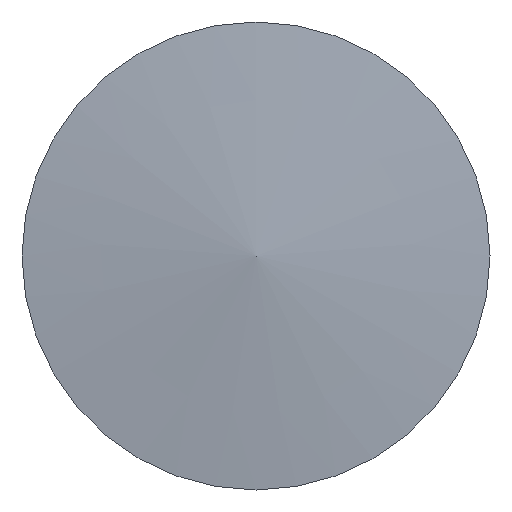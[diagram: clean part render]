
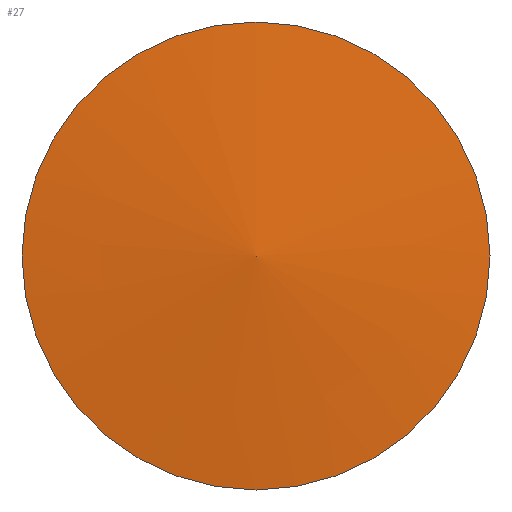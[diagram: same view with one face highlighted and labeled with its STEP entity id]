
A CAD part, front view. The second image highlights one B-rep face of the part: STEP entity #27.
In plain terms, the highlighted conical face has half-angle 84.15 degrees and reference radius 5.507 mm.
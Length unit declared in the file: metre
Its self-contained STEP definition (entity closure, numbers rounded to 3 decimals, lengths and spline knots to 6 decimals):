
#12=VERTEX_LOOP('',#18);
#13=CONICAL_SURFACE('',#35,0.005507,1.469);
#15=ORIENTED_EDGE('',*,*,#16,.F.);
#16=EDGE_CURVE('',#17,#17,#19,.T.);
#17=VERTEX_POINT('',#47);
#18=VERTEX_POINT('',#49);
#19=CIRCLE('',#34,0.005507);
#21=EDGE_LOOP('',(#15));
#23=FACE_BOUND('',#21,.T.);
#24=FACE_BOUND('',#12,.T.);
#27=ADVANCED_FACE('',(#23,#24),#13,.T.);
#34=AXIS2_PLACEMENT_3D('',#46,#40,#41);
#35=AXIS2_PLACEMENT_3D('',#48,#42,#43);
#40=DIRECTION('',(0.,1.,0.));
#41=DIRECTION('',(0.,0.,1.));
#42=DIRECTION('',(0.,1.,0.));
#43=DIRECTION('',(0.,0.,1.));
#46=CARTESIAN_POINT('',(0.,-0.0115,0.));
#47=CARTESIAN_POINT('',(0.,-0.0115,0.005507));
#48=CARTESIAN_POINT('',(0.,-0.0115,0.));
#49=CARTESIAN_POINT('',(0.,-0.012064,0.));
